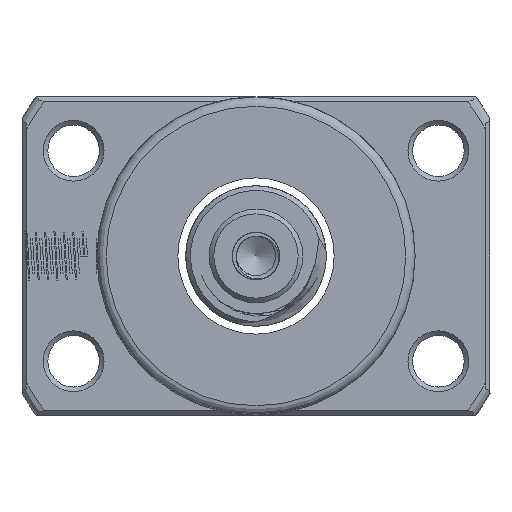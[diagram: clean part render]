
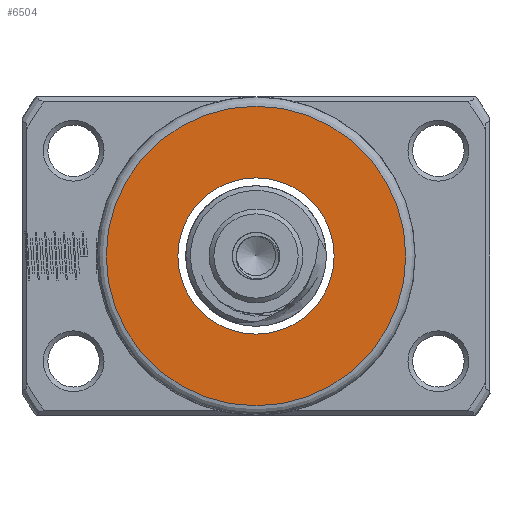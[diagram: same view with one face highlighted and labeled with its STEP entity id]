
A CAD part, left-side view. The second image highlights one B-rep face of the part: STEP entity #6504.
In plain terms, the highlighted planar face has unit normal (-1, 0, 0).
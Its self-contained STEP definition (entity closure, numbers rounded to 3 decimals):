
#523 = AXIS2_PLACEMENT_3D ( 'NONE', #12293, #7156, #1781 ) ;
#1582 = CARTESIAN_POINT ( 'NONE',  ( -53.324, 0., 16. ) ) ;
#1781 = DIRECTION ( 'NONE',  ( 0., 0., 1. ) ) ;
#1923 = EDGE_LOOP ( 'NONE', ( #3405 ) ) ;
#2346 = CIRCLE ( 'NONE', #523, 16. ) ;
#3405 = ORIENTED_EDGE ( 'NONE', *, *, #8305, .F. ) ;
#3734 = DIRECTION ( 'NONE',  ( -1., 0., 0. ) ) ;
#4084 = CARTESIAN_POINT ( 'NONE',  ( -53.324, 8.35, 0. ) ) ;
#4273 = AXIS2_PLACEMENT_3D ( 'NONE', #4084, #16319, #4313 ) ;
#4313 = DIRECTION ( 'NONE',  ( 0., 0., 1. ) ) ;
#6030 = FACE_BOUND ( 'NONE', #1923, .T. ) ;
#6504 = ADVANCED_FACE ( 'NONE', ( #14713, #6030 ), #19758, .T. ) ;
#7156 = DIRECTION ( 'NONE',  ( -1., 0., 0. ) ) ;
#8305 = EDGE_CURVE ( 'NONE', #17472, #17472, #10464, .T. ) ;
#10464 = CIRCLE ( 'NONE', #17405, 8.35 ) ;
#12293 = CARTESIAN_POINT ( 'NONE',  ( -53.324, 0., 0. ) ) ;
#12419 = CARTESIAN_POINT ( 'NONE',  ( -53.324, 0., 0. ) ) ;
#12779 = EDGE_CURVE ( 'NONE', #15417, #15417, #2346, .T. ) ;
#14713 = FACE_OUTER_BOUND ( 'NONE', #15564, .T. ) ;
#14919 = ORIENTED_EDGE ( 'NONE', *, *, #12779, .T. ) ;
#15417 = VERTEX_POINT ( 'NONE', #1582 ) ;
#15564 = EDGE_LOOP ( 'NONE', ( #14919 ) ) ;
#16319 = DIRECTION ( 'NONE',  ( -1., 0., 0. ) ) ;
#17023 = CARTESIAN_POINT ( 'NONE',  ( -53.324, 0., 8.35 ) ) ;
#17405 = AXIS2_PLACEMENT_3D ( 'NONE', #12419, #3734, #18953 ) ;
#17472 = VERTEX_POINT ( 'NONE', #17023 ) ;
#18953 = DIRECTION ( 'NONE',  ( 0., 0., 1. ) ) ;
#19758 = PLANE ( 'NONE',  #4273 ) ;
